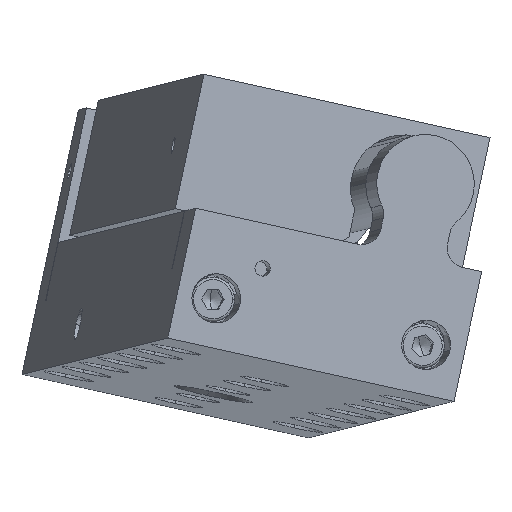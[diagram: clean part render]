
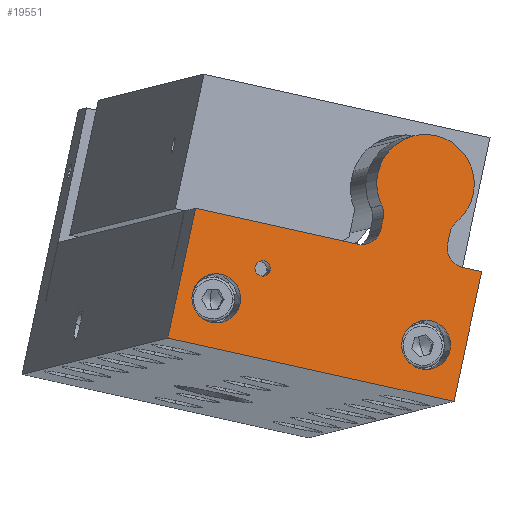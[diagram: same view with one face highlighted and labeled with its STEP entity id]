
A CAD part, left-side view. The second image highlights one B-rep face of the part: STEP entity #19551.
In plain terms, the highlighted planar face has unit normal (-0.99, -0.139, 0.035).
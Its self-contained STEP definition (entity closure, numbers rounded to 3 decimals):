
#1658=CARTESIAN_POINT('',(-40.592,12.624,20.8));
#1659=VERTEX_POINT('',#1658);
#1675=CARTESIAN_POINT('',(-40.391,11.107,20.464));
#1676=VERTEX_POINT('',#1675);
#1683=CARTESIAN_POINT('',(-40.491,11.865,20.632));
#1684=DIRECTION('',(0.99,0.139,-0.035));
#1685=DIRECTION('',(-0.129,0.968,0.215));
#1686=AXIS2_PLACEMENT_3D('',#1683,#1684,#1685);
#1687=CIRCLE('',#1686,0.784);
#1688=EDGE_CURVE('',#1659,#1676,#1687,.T.);
#1719=CARTESIAN_POINT('',(-38.111,-7.151,12.326));
#1720=VERTEX_POINT('',#1719);
#1729=CARTESIAN_POINT('',(-38.753,-2.31,13.4));
#1730=VERTEX_POINT('',#1729);
#1731=CARTESIAN_POINT('',(-38.432,-4.73,12.863));
#1732=DIRECTION('',(0.99,0.139,-0.035));
#1733=DIRECTION('',(0.129,-0.968,-0.215));
#1734=AXIS2_PLACEMENT_3D('',#1731,#1732,#1733);
#1735=CIRCLE('',#1734,2.5);
#1736=EDGE_CURVE('',#1730,#1720,#1735,.T.);
#1816=CARTESIAN_POINT('',(-40.938,14.15,17.05));
#1817=VERTEX_POINT('',#1816);
#1826=CARTESIAN_POINT('',(-41.581,18.991,18.123));
#1827=VERTEX_POINT('',#1826);
#1828=CARTESIAN_POINT('',(-41.259,16.57,17.586));
#1829=DIRECTION('',(0.99,0.139,-0.035));
#1830=DIRECTION('',(0.129,-0.968,-0.215));
#1831=AXIS2_PLACEMENT_3D('',#1828,#1829,#1830);
#1832=CIRCLE('',#1831,2.5);
#1833=EDGE_CURVE('',#1827,#1817,#1832,.T.);
#14507=CARTESIAN_POINT('',(-37.379,-10.371,20.301));
#14508=VERTEX_POINT('',#14507);
#14515=CARTESIAN_POINT('',(-38.235,-7.563,7.124));
#14516=VERTEX_POINT('',#14515);
#14517=CARTESIAN_POINT('',(-37.379,-10.371,20.301));
#14518=DIRECTION('',(-0.063,0.208,-0.976));
#14519=VECTOR('',#14518,13.5);
#14520=LINE('',#14517,#14519);
#14521=EDGE_CURVE('',#14508,#14516,#14520,.T.);
#15050=CARTESIAN_POINT('',(-42.091,21.483,13.565));
#15051=VERTEX_POINT('',#15050);
#15058=CARTESIAN_POINT('',(-41.234,18.675,26.742));
#15059=VERTEX_POINT('',#15058);
#15060=CARTESIAN_POINT('',(-42.091,21.483,13.565));
#15061=DIRECTION('',(0.063,-0.208,0.976));
#15062=VECTOR('',#15061,13.5);
#15063=LINE('',#15060,#15062);
#15064=EDGE_CURVE('',#15051,#15059,#15063,.T.);
#16855=CARTESIAN_POINT('',(-38.235,-7.563,7.124));
#16856=DIRECTION('',(-0.129,0.968,0.215));
#16857=VECTOR('',#16856,30.);
#16858=LINE('',#16855,#16857);
#16859=EDGE_CURVE('',#14516,#15051,#16858,.T.);
#19436=CARTESIAN_POINT('',(-39.735,5.556,16.933));
#19437=DIRECTION('',(-0.99,-0.139,0.035));
#19438=DIRECTION('',(0.129,-0.968,-0.215));
#19439=AXIS2_PLACEMENT_3D('',#19436,#19437,#19438);
#19440=PLANE('',#19439);
#19441=ORIENTED_EDGE('',*,*,#15064,.F.);
#19442=ORIENTED_EDGE('',*,*,#16859,.F.);
#19443=ORIENTED_EDGE('',*,*,#14521,.F.);
#19444=CARTESIAN_POINT('',(-37.636,-8.435,20.73));
#19445=VERTEX_POINT('',#19444);
#19446=CARTESIAN_POINT('',(-37.636,-8.435,20.73));
#19447=DIRECTION('',(0.129,-0.968,-0.215));
#19448=VECTOR('',#19447,2.);
#19449=LINE('',#19446,#19448);
#19450=EDGE_CURVE('',#19445,#14508,#19449,.T.);
#19451=ORIENTED_EDGE('',*,*,#19450,.F.);
#19452=CARTESIAN_POINT('',(-37.766,-6.914,23.112));
#19453=VERTEX_POINT('',#19452);
#19454=CARTESIAN_POINT('',(-37.509,-8.851,22.682));
#19455=DIRECTION('',(-0.99,-0.139,0.035));
#19456=DIRECTION('',(-0.136,0.832,-0.538));
#19457=AXIS2_PLACEMENT_3D('',#19454,#19455,#19456);
#19458=CIRCLE('',#19457,2.0);
#19459=EDGE_CURVE('',#19453,#19445,#19458,.T.);
#19460=ORIENTED_EDGE('',*,*,#19459,.F.);
#19461=CARTESIAN_POINT('',(-37.691,-7.158,24.253));
#19462=VERTEX_POINT('',#19461);
#19463=CARTESIAN_POINT('',(-37.691,-7.158,24.253));
#19464=DIRECTION('',(-0.063,0.208,-0.976));
#19465=VECTOR('',#19464,1.17);
#19466=LINE('',#19463,#19465);
#19467=EDGE_CURVE('',#19462,#19453,#19466,.T.);
#19468=ORIENTED_EDGE('',*,*,#19467,.F.);
#19469=CARTESIAN_POINT('',(-37.558,-7.83,25.369));
#19470=VERTEX_POINT('',#19469);
#19471=CARTESIAN_POINT('',(-37.434,-9.094,23.824));
#19472=DIRECTION('',(-0.99,-0.139,0.035));
#19473=DIRECTION('',(-0.101,0.847,0.522));
#19474=AXIS2_PLACEMENT_3D('',#19471,#19472,#19473);
#19475=CIRCLE('',#19474,2.0);
#19476=EDGE_CURVE('',#19470,#19462,#19475,.T.);
#19477=ORIENTED_EDGE('',*,*,#19476,.F.);
#19478=CARTESIAN_POINT('',(-38.568,-0.223,27.056));
#19479=VERTEX_POINT('',#19478);
#19480=CARTESIAN_POINT('',(-37.866,-4.67,29.231));
#19481=DIRECTION('',(0.99,0.139,-0.035));
#19482=DIRECTION('',(0.129,-0.968,-0.215));
#19483=AXIS2_PLACEMENT_3D('',#19480,#19481,#19482);
#19484=CIRCLE('',#19483,5.0);
#19485=EDGE_CURVE('',#19479,#19470,#19484,.T.);
#19486=ORIENTED_EDGE('',*,*,#19485,.F.);
#19487=CARTESIAN_POINT('',(-38.591,-0.38,25.756));
#19488=VERTEX_POINT('',#19487);
#19489=CARTESIAN_POINT('',(-38.848,1.556,26.186));
#19490=DIRECTION('',(-0.99,-0.139,0.035));
#19491=DIRECTION('',(0.142,-0.983,0.117));
#19492=AXIS2_PLACEMENT_3D('',#19489,#19490,#19491);
#19493=CIRCLE('',#19492,2.0);
#19494=EDGE_CURVE('',#19488,#19479,#19493,.T.);
#19495=ORIENTED_EDGE('',*,*,#19494,.F.);
#19496=CARTESIAN_POINT('',(-38.665,-0.137,24.614));
#19497=VERTEX_POINT('',#19496);
#19498=CARTESIAN_POINT('',(-38.665,-0.137,24.614));
#19499=DIRECTION('',(0.063,-0.208,0.976));
#19500=VECTOR('',#19499,1.17);
#19501=LINE('',#19498,#19500);
#19502=EDGE_CURVE('',#19497,#19488,#19501,.T.);
#19503=ORIENTED_EDGE('',*,*,#19502,.F.);
#19504=CARTESIAN_POINT('',(-39.049,2.215,23.092));
#19505=VERTEX_POINT('',#19504);
#19506=CARTESIAN_POINT('',(-38.922,1.799,25.044));
#19507=DIRECTION('',(-0.99,-0.139,0.035));
#19508=DIRECTION('',(0.046,-0.538,-0.842));
#19509=AXIS2_PLACEMENT_3D('',#19506,#19507,#19508);
#19510=CIRCLE('',#19509,2.0);
#19511=EDGE_CURVE('',#19505,#19497,#19510,.T.);
#19512=ORIENTED_EDGE('',*,*,#19511,.F.);
#19513=CARTESIAN_POINT('',(-41.234,18.675,26.742));
#19514=DIRECTION('',(0.129,-0.968,-0.215));
#19515=VECTOR('',#19514,17.);
#19516=LINE('',#19513,#19515);
#19517=EDGE_CURVE('',#15059,#19505,#19516,.T.);
#19518=ORIENTED_EDGE('',*,*,#19517,.F.);
#19519=EDGE_LOOP('',(#19441,#19442,#19443,#19451,#19460,#19468,#19477,#19486,#19495,#19503,#19512,#19518));
#19520=FACE_OUTER_BOUND('',#19519,.T.);
#19521=CARTESIAN_POINT('',(-40.491,11.865,20.632));
#19522=DIRECTION('',(0.99,0.139,-0.035));
#19523=DIRECTION('',(-0.129,0.968,0.215));
#19524=AXIS2_PLACEMENT_3D('',#19521,#19522,#19523);
#19525=CIRCLE('',#19524,0.784);
#19526=EDGE_CURVE('',#1676,#1659,#19525,.T.);
#19527=ORIENTED_EDGE('',*,*,#19526,.T.);
#19528=ORIENTED_EDGE('',*,*,#1688,.T.);
#19529=EDGE_LOOP('',(#19527,#19528));
#19530=FACE_BOUND('',#19529,.T.);
#19531=CARTESIAN_POINT('',(-41.259,16.57,17.586));
#19532=DIRECTION('',(0.99,0.139,-0.035));
#19533=DIRECTION('',(0.129,-0.968,-0.215));
#19534=AXIS2_PLACEMENT_3D('',#19531,#19532,#19533);
#19535=CIRCLE('',#19534,2.5);
#19536=EDGE_CURVE('',#1817,#1827,#19535,.T.);
#19537=ORIENTED_EDGE('',*,*,#19536,.T.);
#19538=ORIENTED_EDGE('',*,*,#1833,.T.);
#19539=EDGE_LOOP('',(#19537,#19538));
#19540=FACE_BOUND('',#19539,.T.);
#19541=CARTESIAN_POINT('',(-38.432,-4.73,12.863));
#19542=DIRECTION('',(0.99,0.139,-0.035));
#19543=DIRECTION('',(0.129,-0.968,-0.215));
#19544=AXIS2_PLACEMENT_3D('',#19541,#19542,#19543);
#19545=CIRCLE('',#19544,2.5);
#19546=EDGE_CURVE('',#1720,#1730,#19545,.T.);
#19547=ORIENTED_EDGE('',*,*,#19546,.T.);
#19548=ORIENTED_EDGE('',*,*,#1736,.T.);
#19549=EDGE_LOOP('',(#19547,#19548));
#19550=FACE_BOUND('',#19549,.T.);
#19551=ADVANCED_FACE('',(#19520,#19530,#19540,#19550),#19440,.T.);
